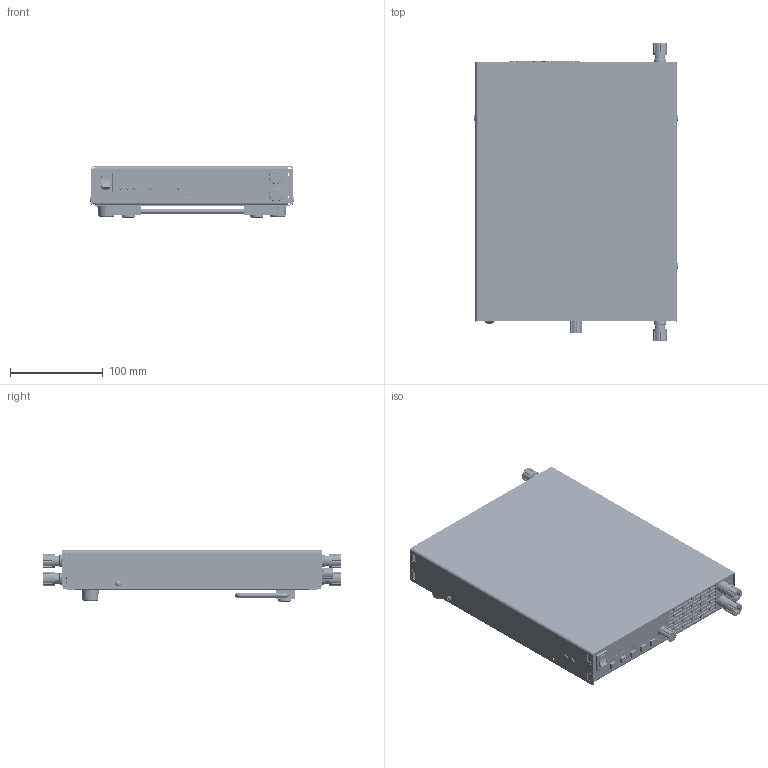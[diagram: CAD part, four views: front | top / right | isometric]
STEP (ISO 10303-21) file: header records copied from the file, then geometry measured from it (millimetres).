
FILE_DESCRIPTION(('STEP AP214'),'1');
FILE_NAME('PLA_M1_H19Z_1HE_PK4_30L_PK4_30L_3D_02_BAK.step','2024-08-20T12:03:10',(' '),(' '),'Spatial InterOp 3D',' ',' ');
FILE_SCHEMA(('AUTOMOTIVE_DESIGN { 1 0 10303 214 1 1 1 1 }'));
Length unit declared in the file: millimetre
Products named in the file (3): PLA_M1_H19Z_1HE_PK4_30L_PK4_30L_3D_02_BAK; 1708_PLA Bodenplatte_3D_03; AutoCreatedBlock_151
Assembly tree (2 placements, depth 2):
  PLA_M1_H19Z_1HE_PK4_30L_PK4_30L_3D_02_BAK
    1708_PLA Bodenplatte_3D_03
    AutoCreatedBlock_151
Bounding box: 221.56 x 322.5 x 55.75 mm (x, y, z)
Volume: 2298444.9 mm3; surface area: 540445.6 mm2
Topology: 83 solids, 86 shells, 6515 faces, 17220 edges, 10965 vertices
Faces by surface type: plane 2968, cylinder 1607, cone 1504, torus 214, bspline 212, sphere 8, extrusion 2
Entity records: 267875 total; most frequent: CARTESIAN_POINT 50932, DIRECTION 34444, ORIENTED_EDGE 33978, EDGE_CURVE 16989, AXIS2_PLACEMENT_3D 11855, VECTOR 10734, LINE 10732, VERTEX_POINT 10654
